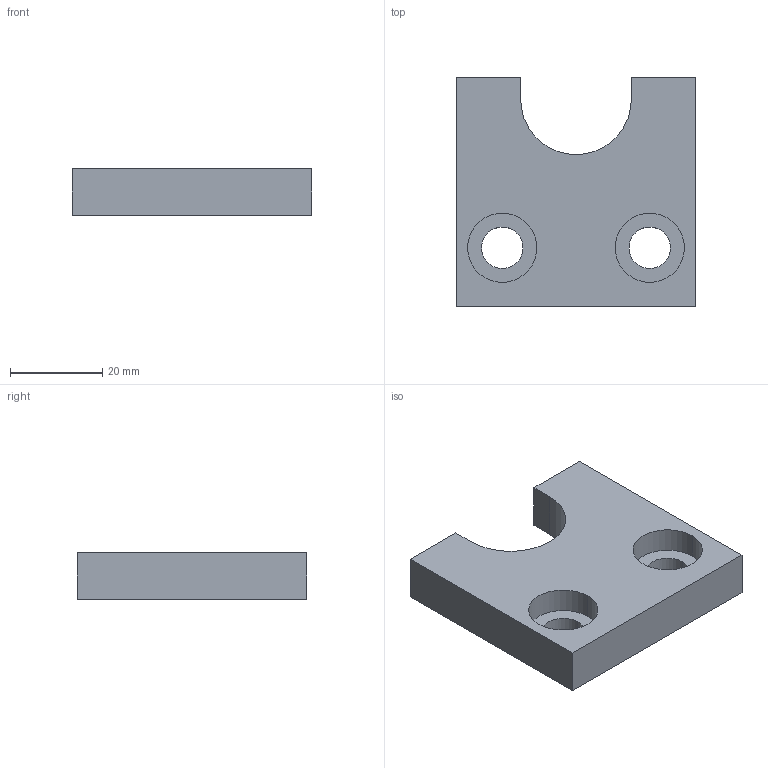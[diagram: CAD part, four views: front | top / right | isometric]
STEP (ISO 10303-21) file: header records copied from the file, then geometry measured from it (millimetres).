
FILE_DESCRIPTION (( 'STEP AP214' ), '1' );
FILE_NAME ('81010.STEP', '2020-10-27T13:08:28', ( '' ), ( '' ), 'SwSTEP 2.0', 'SolidWorks 2019', '' );
FILE_SCHEMA (( 'AUTOMOTIVE_DESIGN' ));
Length unit declared in the file: millimetre
Products named in the file (1): 81010
Bounding box: 52 x 49.8 x 10 mm (x, y, z)
Volume: 19988.3 mm3; surface area: 7280 mm2
Topology: 1 solids, 1 shells, 20 faces, 48 edges, 32 vertices
Faces by surface type: plane 11, cylinder 9
Entity records: 720 total; most frequent: DIRECTION 108, CARTESIAN_POINT 101, ORIENTED_EDGE 96, EDGE_CURVE 48, AXIS2_PLACEMENT_3D 39, VERTEX_POINT 32, VECTOR 30, LINE 30
